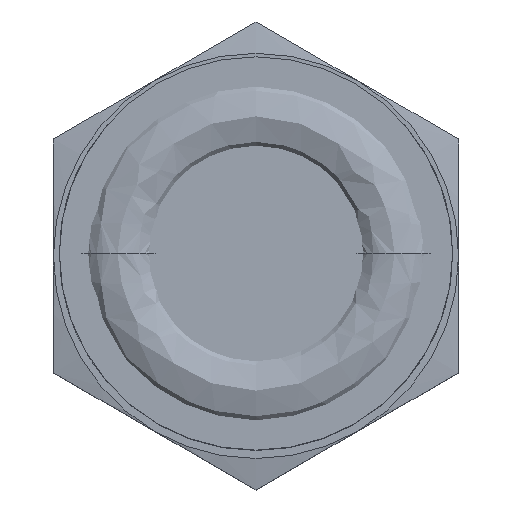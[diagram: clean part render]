
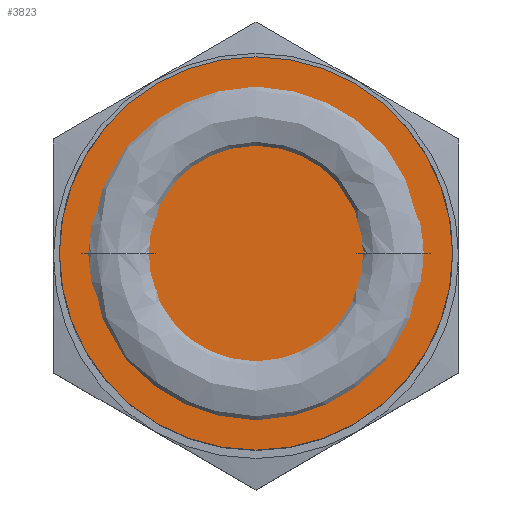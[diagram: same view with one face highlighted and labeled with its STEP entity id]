
A CAD part, top view. The second image highlights one B-rep face of the part: STEP entity #3823.
In plain terms, the highlighted planar face has unit normal (0, 0, 1).
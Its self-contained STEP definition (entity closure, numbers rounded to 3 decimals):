
#230 = ORIENTED_EDGE ( 'NONE', *, *, #2421, .T. ) ;
#1233 = AXIS2_PLACEMENT_3D ( 'NONE', #1523, #5864, #3033 ) ;
#1418 = ORIENTED_EDGE ( 'NONE', *, *, #5410, .T. ) ;
#1492 = AXIS2_PLACEMENT_3D ( 'NONE', #5363, #4833, #1991 ) ;
#1523 = CARTESIAN_POINT ( 'NONE',  ( 0., 0., 0. ) ) ;
#1739 = CIRCLE ( 'NONE', #2735, 8.25 ) ;
#1991 = DIRECTION ( 'NONE',  ( 1., 0., 0. ) ) ;
#2170 = FACE_OUTER_BOUND ( 'NONE', #2323, .T. ) ;
#2323 = EDGE_LOOP ( 'NONE', ( #230, #1418 ) ) ;
#2421 = EDGE_CURVE ( 'NONE', #3590, #2907, #1739, .T. ) ;
#2735 = AXIS2_PLACEMENT_3D ( 'NONE', #3166, #6000, #4631 ) ;
#2907 = VERTEX_POINT ( 'NONE', #5223 ) ;
#2908 = CIRCLE ( 'NONE', #1492, 8.25 ) ;
#3033 = DIRECTION ( 'NONE',  ( 1., 0., 0. ) ) ;
#3166 = CARTESIAN_POINT ( 'NONE',  ( 0., 0., 0. ) ) ;
#3590 = VERTEX_POINT ( 'NONE', #5851 ) ;
#3823 = ADVANCED_FACE ( 'NONE', ( #2170 ), #4900, .T. ) ;
#4631 = DIRECTION ( 'NONE',  ( 1., 0., 0. ) ) ;
#4833 = DIRECTION ( 'NONE',  ( 0., 0., 1. ) ) ;
#4900 = PLANE ( 'NONE',  #1233 ) ;
#5223 = CARTESIAN_POINT ( 'NONE',  ( -8.25, 0., 0. ) ) ;
#5363 = CARTESIAN_POINT ( 'NONE',  ( 0., 0., 0. ) ) ;
#5410 = EDGE_CURVE ( 'NONE', #2907, #3590, #2908, .T. ) ;
#5851 = CARTESIAN_POINT ( 'NONE',  ( 8.25, 0., 0. ) ) ;
#5864 = DIRECTION ( 'NONE',  ( 0., 0., 1. ) ) ;
#6000 = DIRECTION ( 'NONE',  ( 0., 0., 1. ) ) ;
